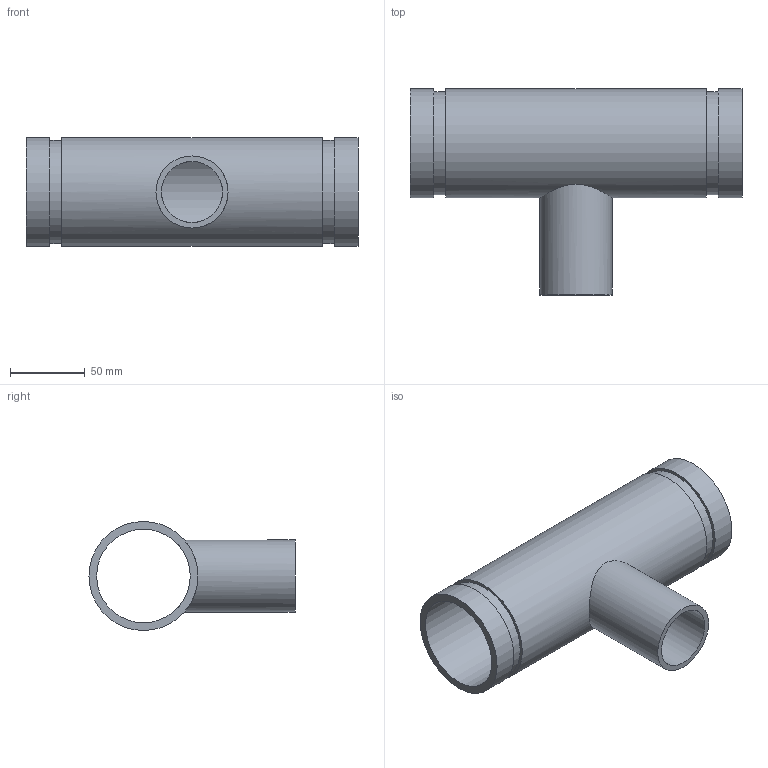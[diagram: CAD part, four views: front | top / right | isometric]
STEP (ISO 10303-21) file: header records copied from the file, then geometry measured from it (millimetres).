
FILE_DESCRIPTION(/* description */ ('VIC REDUCING TEE No 29T FFT (OGSxMPT)','CAx-IF Rec.Pracs.---Representation and Presentation of Product Manufacturing Information (PMI)---4.0---2014-10-13'),/* implementation_level */ '2;1');
FILE_NAME(/* name */ 'C:\Users\kkamble\AppData\Roaming\Autodesk\ApplicationPlugins\Back Up\Victaulic_IPS_Tee Reducing_No 29T FFT (OGSxMPT)\Victaulic_IPS_Tee Reducing_No 29T FFT (OGSxMPT)_02.5x01.5 (65x40).stp',/* time_stamp */ '2020-09-16T22:37:28+05:00',/* author */ ('CORINNE GRAY'),/* organization */ ('Victaulic'),/* preprocessor_version */ 'ST-DEVELOPER v17.2',/* originating_system */ 'Autodesk Inventor 2019',/* authorisation */ '');
FILE_SCHEMA (('AP242_MANAGED_MODEL_BASED_3D_ENGINEERING_MIM_LF { 1 0 10303 442 1 1 4 }'));
Length unit declared in the file: inch
Products named in the file (1): 29 FFT-02.5x01.5
Bounding box: 222.5 x 138.11 x 73.03 mm (x, y, z)
Volume: 265987.8 mm3; surface area: 115839.3 mm2
Topology: 1 solids, 1 shells, 15 faces, 32 edges, 24 vertices
Faces by surface type: cylinder 8, plane 7
Full cylindrical faces by diameter (mm): 40.894 x1, 48.26 x1, 62.713 x1, 69.088 x2, 73.025 x3
Entity records: 709 total; most frequent: CARTESIAN_POINT 221, DIRECTION 106, ORIENTED_EDGE 64, AXIS2_PLACEMENT_3D 49, EDGE_CURVE 32, EDGE_LOOP 24, VERTEX_POINT 24, CIRCLE 20
